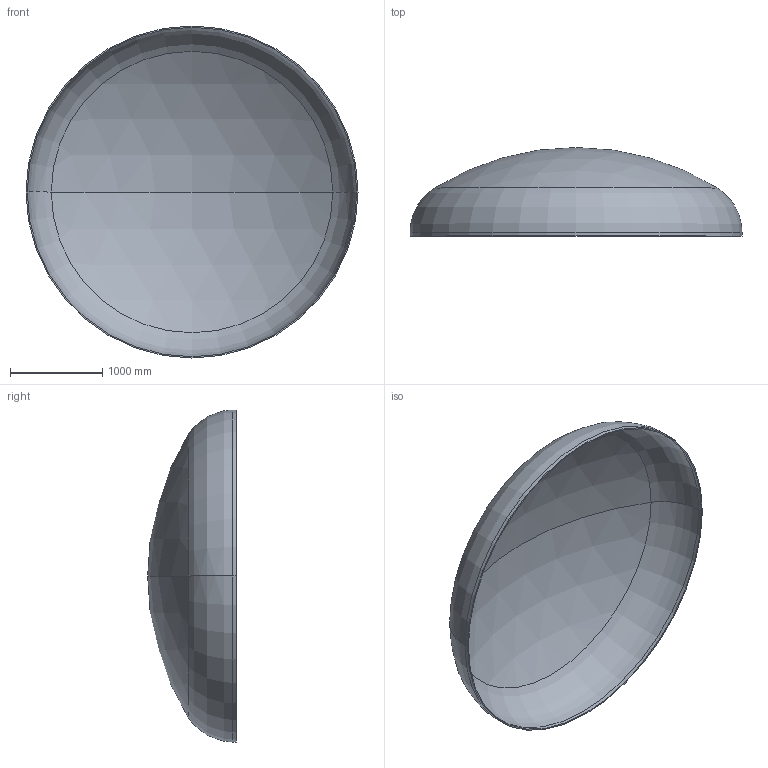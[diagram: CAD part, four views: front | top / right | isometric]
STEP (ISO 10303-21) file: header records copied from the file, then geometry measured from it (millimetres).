
FILE_DESCRIPTION (( 'STEP AP203' ), '1' );
FILE_NAME ('DIN 28013 Korbbogenform_-_Boden DIN 28013 - 3600 x 40 - I - s=13.step', '2016-07-01T20:06:29', ( '' ), ( '' ), 'SwSTEP 2.0', 'SolidWorks 2013', '' );
FILE_SCHEMA (( 'CONFIG_CONTROL_DESIGN' ));
Length unit declared in the file: millimetre
Products named in the file (1): DIN 28013 Korbbogenform_-_Boden DIN 28013 - 3600 x 40 - I - s=13
Bounding box: 3600 x 961.25 x 3600 mm (x, y, z)
Volume: 188302675.2 mm3; surface area: 29116480.2 mm2
Topology: 1 solids, 1 shells, 13 faces, 24 edges, 14 vertices
Faces by surface type: torus 4, cylinder 4, sphere 4, plane 1
Entity records: 407 total; most frequent: DIRECTION 72, CARTESIAN_POINT 52, ORIENTED_EDGE 48, AXIS2_PLACEMENT_3D 34, EDGE_CURVE 24, CIRCLE 20, EDGE_LOOP 14, VERTEX_POINT 14
